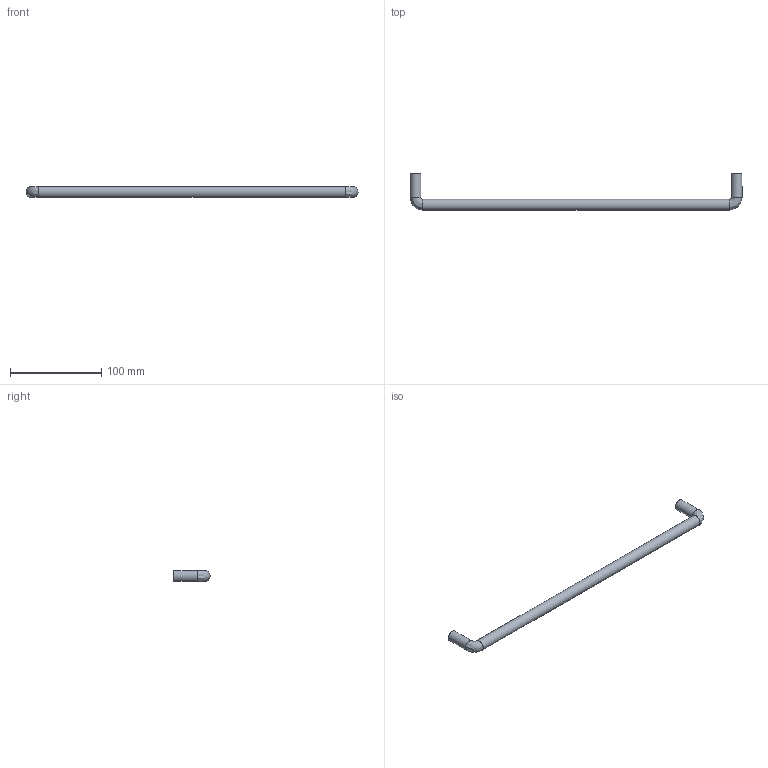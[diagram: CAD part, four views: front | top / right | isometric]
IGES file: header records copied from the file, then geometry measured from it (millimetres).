
Start section: Data from Parasolid IGES Translator 15.0.47, Copyright(c) 2006 Siemens P LM Software. All Rights Reserved.
Global section: file name: 9070111.igs; native system:  By UGS Corp.; preprocessor: XPlus GENERIC/IGES 3.0; author: Noname; organization: Noname; date: 20140122.155454; units: millimetre
Bounding box: 364 x 40 x 12 mm (x, y, z)
Surface area: 16052.3 mm2 (no closed solid volume)
Topology: 0 solids, 0 shells, 11 faces, 42 edges, 38 vertices
Faces by surface type: revolution 7, extrusion 4
